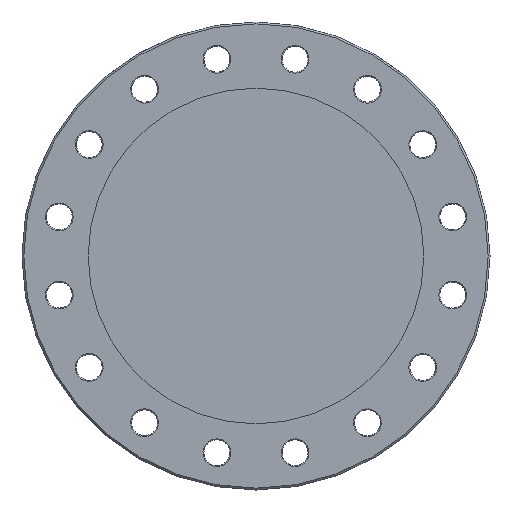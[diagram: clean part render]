
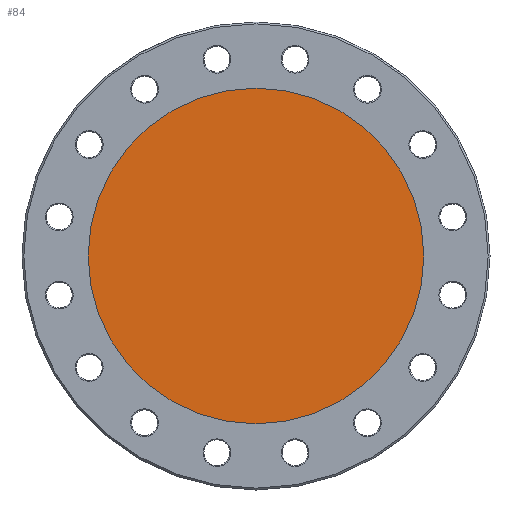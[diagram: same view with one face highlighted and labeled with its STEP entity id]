
A CAD part, left-side view. The second image highlights one B-rep face of the part: STEP entity #84.
In plain terms, the highlighted planar face has unit normal (-1, 0, 0).
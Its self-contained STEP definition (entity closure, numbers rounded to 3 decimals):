
#68=CARTESIAN_POINT('',(-14.3,30.1,0.0));
#69=DIRECTION('',(-1.0,0.0,0.0));
#70=DIRECTION('',(0.0,0.0,1.0));
#71=AXIS2_PLACEMENT_3D('',#68,#69,#70);
#72=PLANE('',#71);
#73=CARTESIAN_POINT('',(-14.3,54.5,0.0));
#74=VERTEX_POINT('',#73);
#75=CARTESIAN_POINT('',(-14.3,0.,0.0));
#76=DIRECTION('',(1.0,0.0,0.0));
#77=DIRECTION('',(0.0,1.0,0.0));
#78=AXIS2_PLACEMENT_3D('',#75,#76,#77);
#79=CIRCLE('',#78,54.5);
#80=EDGE_CURVE('',#74,#74,#79,.T.);
#81=ORIENTED_EDGE('',*,*,#80,.F.);
#82=EDGE_LOOP('',(#81));
#83=FACE_OUTER_BOUND('',#82,.T.);
#84=ADVANCED_FACE('',(#83),#72,.T.);
